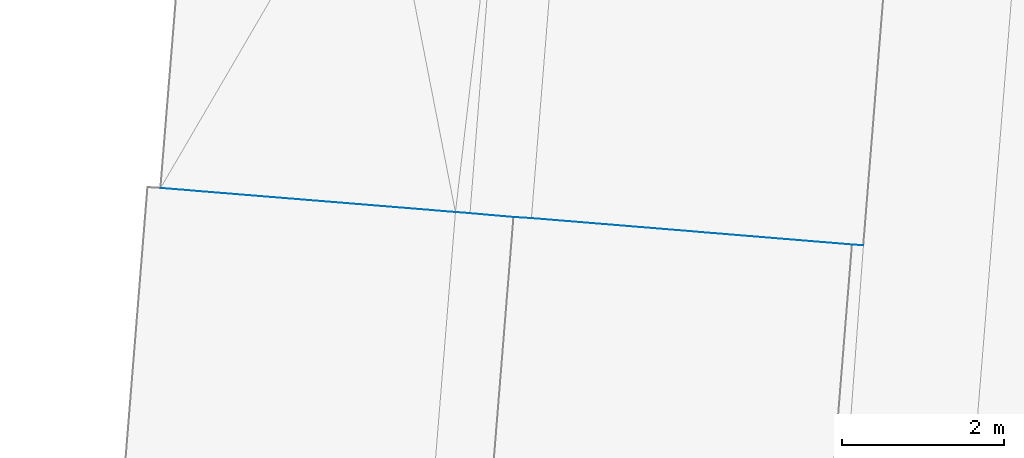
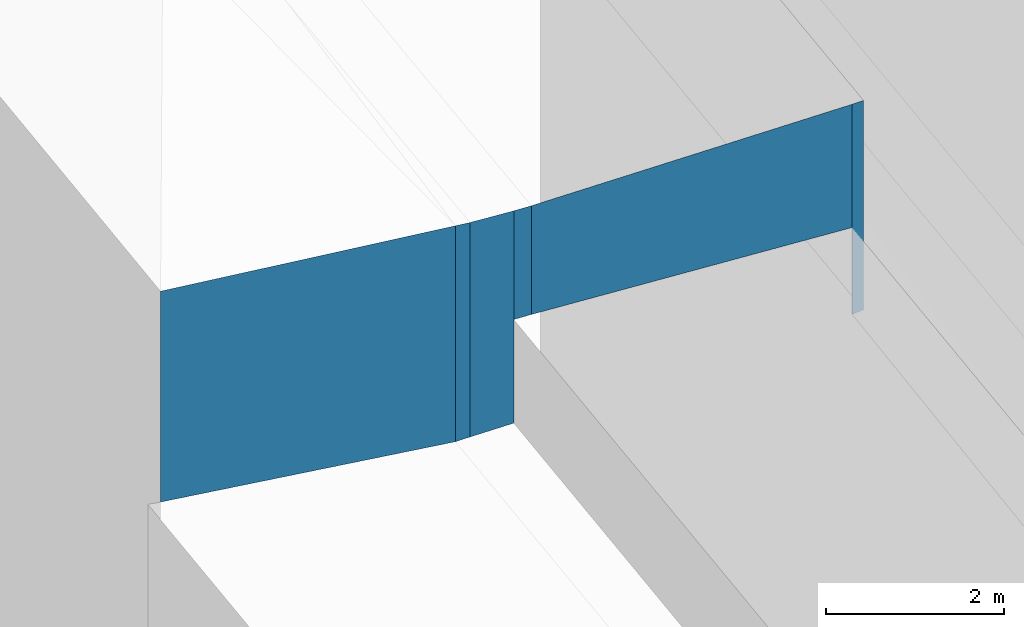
# Not in any storey, part 75 of 136: 6 walls.
"""IFC2X3 building model written with IfcOpenShell, lengths in metres."""

import ifcopenshell
import ifcopenshell.guid

model = None  # the IFC model being written
_history = None  # IfcOwnerHistory: only IFC2X3 demands one
_inside = {}  # id of a spatial element -> (the spatial element, [elements in it])
_under = {}  # id of a project, library or spatial element -> (it, [spatial elements below it])
_declared = {}  # id of a project -> (the project, [libraries it declares])
_typed = {}  # id of a type object -> (the type object, [elements of that type])
_made_of = {}  # id of a material, layer set ... -> (it, [elements and type objects made of it])


def new_model(schema):
    """Start an empty IFC model of exactly this schema.

    Asked for "IFC4X3", IfcOpenShell would pick the latest addendum, in which some entities
    have other attributes; the version numbers below select the first issue.
    IFC2X3 requires an IfcOwnerHistory on every rooted entity: one is made here for all.
    """
    global model, _history
    if schema == "IFC4X3":
        model = ifcopenshell.file(schema_version=(4, 3, 0, 0))
    else:
        model = ifcopenshell.file(schema=schema)
    _inside.clear()
    _under.clear()
    _declared.clear()
    _typed.clear()
    _made_of.clear()
    _history = None
    if model.schema == "IFC2X3":
        org = make("IfcOrganization", Name="unknown")
        user = make(
            "IfcPersonAndOrganization",
            ThePerson=make("IfcPerson", FamilyName="unknown"),
            TheOrganization=org,
        )
        app = make(
            "IfcApplication",
            ApplicationDeveloper=org,
            Version="unknown",
            ApplicationFullName="unknown",
            ApplicationIdentifier="unknown",
        )
        _history = make(
            "IfcOwnerHistory",
            OwningUser=user,
            OwningApplication=app,
            ChangeAction="ADDED",
            CreationDate=0,
        )
    return model


def make(cls, **values):
    """One entity of the class cls with the attributes given. An attribute that is None is left unset."""
    return model.create_entity(
        cls, **{name: value for name, value in values.items() if value is not None}
    )


def entity(cls, *values):
    """Any entity or typed value of the class cls, its attributes in the order of the schema. None: left unset."""
    e = model.create_entity(cls)
    for i, value in enumerate(values):
        if value is not None:
            e[i] = value
    return e


def rooted(cls, **values):
    """An entity with a GlobalId (a new one), such as an element, a storey or a relation."""
    return make(cls, GlobalId=ifcopenshell.guid.new(), OwnerHistory=_history, **values)


def si_unit(unit_type, name, prefix=None):
    """IfcSIUnit, for example si_unit("LENGTHUNIT", "METRE", prefix="MILLI")."""
    return make("IfcSIUnit", UnitType=unit_type, Prefix=prefix, Name=name)


def converted_unit(unit_type, name, factor, base, dimensions=None, offset=None):
    """IfcConversionBasedUnit, such as the inch: factor (a typed value) times the base unit."""
    return make(
        "IfcConversionBasedUnit"
        if offset is None
        else "IfcConversionBasedUnitWithOffset",
        ConversionOffset=offset,
        Dimensions=None
        if dimensions is None
        else entity("IfcDimensionalExponents", *dimensions),
        UnitType=unit_type,
        Name=name,
        ConversionFactor=make(
            "IfcMeasureWithUnit", ValueComponent=factor, UnitComponent=base
        ),
    )


def assignment(units):
    """IfcUnitAssignment: the units of a project."""
    return None if units is None else make("IfcUnitAssignment", Units=units)


def point(xyz):
    """IfcCartesianPoint."""
    return None if xyz is None else make("IfcCartesianPoint", Coordinates=xyz)


def direction(xyz):
    """IfcDirection."""
    return None if xyz is None else make("IfcDirection", DirectionRatios=xyz)


def frame(location, z_axis=None, x_axis=None):
    """IfcAxis2Placement3D, a coordinate frame: its origin and axes. An axis left out is left unset."""
    return make(
        "IfcAxis2Placement3D",
        Location=point(location),
        Axis=direction(z_axis),
        RefDirection=direction(x_axis),
    )


def origin():
    """The frame at (0, 0, 0) with its axes left unset."""
    return frame((0.0, 0.0, 0.0))


def place(relative_to, where):
    """IfcLocalPlacement: puts the frame where relative to a parent placement (None: the world)."""
    return make(
        "IfcLocalPlacement", PlacementRelTo=relative_to, RelativePlacement=where
    )


def context(
    kind, dimensions, precision=None, world=None, true_north=None, identifier=None
):
    """IfcGeometricRepresentationContext, for example the 3D "Model" context."""
    return make(
        "IfcGeometricRepresentationContext",
        ContextIdentifier=identifier,
        ContextType=kind,
        CoordinateSpaceDimension=dimensions,
        Precision=precision,
        WorldCoordinateSystem=world,
        TrueNorth=true_north,
    )


def subcontext(parent, identifier, kind, view, scale=None):
    """IfcGeometricRepresentationSubContext, for example "Body" below "Model"."""
    return make(
        "IfcGeometricRepresentationSubContext",
        ContextIdentifier=identifier,
        ContextType=kind,
        ParentContext=parent,
        TargetScale=scale,
        TargetView=view,
    )


def project(units=None, contexts=None):
    """IfcProject with its units and contexts."""
    return rooted(
        "IfcProject",
        Name="project",
        RepresentationContexts=contexts,
        UnitsInContext=assignment(units),
    )


def spatial(cls, under=None, at=None, **own):
    """A site, building, storey or space (cls), placed at a placement, below another one or the project."""
    s = rooted(cls, ObjectPlacement=at, **own)
    if under is not None:
        _under.setdefault(under.id(), (under, []))[1].append(s)
    return s


def faces_of(points, faces, orient=None, outer=None):
    """IfcFace entities. A face is a list of loops; a loop is a list of indices into points, from 0.

    orient and outer hold one flag for each loop. By default every Orientation is true, the
    first loop of a face is its IfcFaceOuterBound and the others are IfcFaceBound.
    """
    made = []
    for i, loops in enumerate(faces):
        bounds = []
        for j, loop in enumerate(loops):
            is_outer = j == 0 if outer is None else outer[i][j]
            bounds.append(
                make(
                    "IfcFaceOuterBound" if is_outer else "IfcFaceBound",
                    Bound=make("IfcPolyLoop", Polygon=[points[k] for k in loop]),
                    Orientation=True if orient is None else orient[i][j],
                )
            )
        made.append(make("IfcFace", Bounds=bounds))
    return made


def face_set(faces, orient=None, outer=None):
    """The faces of one IfcConnectedFaceSet. surface_model builds it on its shared points."""
    return ("IfcConnectedFaceSet", faces, orient, outer)


def surface_model(cls, points, shells):
    """IfcFaceBasedSurfaceModel or IfcShellBasedSurfaceModel (cls): surfaces that need not close."""
    shared = [point(p) for p in points]
    made = [make(c, CfsFaces=faces_of(shared, fs, o, b)) for c, fs, o, b in shells]
    if cls == "IfcFaceBasedSurfaceModel":
        return make(cls, FbsmFaces=made)
    return make(cls, SbsmBoundary=made)


def shape(context_of_items, identifier, shape_type, items):
    """IfcShapeRepresentation: the items that make up one representation, for example the "Body"."""
    return make(
        "IfcShapeRepresentation",
        ContextOfItems=context_of_items,
        RepresentationIdentifier=identifier,
        RepresentationType=shape_type,
        Items=items,
    )


def made_of(thing, what):
    """Note that an element or type object is made of a material, layer set ...; save() writes the relation."""
    if what is not None:
        _made_of.setdefault(what.id(), (what, []))[1].append(thing)
    return thing


def element(
    cls,
    number,
    at=None,
    inside=None,
    cuts=None,
    type_object=None,
    material=None,
    context=None,
    identifier="Body",
    shape_type=None,
    held_by="IfcProductDefinitionShape",
    body=None,
    shapes=None,
    **own,
):
    """One element of the class cls, such as IfcWall. Its Tag is "e" and its number.

    at: its placement. inside: the storey or other place that contains it. cuts: it is an
    opening in that element (IfcRelVoidsElement). A single representation is given by context,
    identifier, shape_type and body (its items); several are given by shapes. held_by: the class
    of the entity that holds the representations. save() writes the other relations.
    """
    e = rooted(cls, Tag="e%d" % number, ObjectPlacement=at, **own)
    if body is not None:
        shapes = [shape(context, identifier, shape_type, body)]
    if shapes is not None:
        e.Representation = make(held_by, Representations=shapes)
    if inside is not None:
        _inside.setdefault(inside.id(), (inside, []))[1].append(e)
    if cuts is not None:
        rooted(
            "IfcRelVoidsElement", RelatingBuildingElement=cuts, RelatedOpeningElement=e
        )
    if type_object is not None:
        _typed.setdefault(type_object.id(), (type_object, []))[1].append(e)
    return made_of(e, material)


def aggregate(whole, parts):
    """IfcRelAggregates: a whole, such as a stair, and the parts it consists of."""
    return rooted("IfcRelAggregates", RelatingObject=whole, RelatedObjects=parts)


def save(model, path):
    """Write the relations noted so far, then the file.

    IfcRelAggregates (storeys below a building ...), IfcRelContainedInSpatialStructure (elements
    in a storey), IfcRelDefinesByType, IfcRelAssociatesMaterial and IfcRelDeclares: one each for
    every whole, place, type object, material and project.
    """
    for whole, parts in _under.values():
        aggregate(whole, parts)
    for where, things in _inside.values():
        rooted(
            "IfcRelContainedInSpatialStructure",
            RelatedElements=things,
            RelatingStructure=where,
        )
    for kind, things in _typed.values():
        rooted("IfcRelDefinesByType", RelatedObjects=things, RelatingType=kind)
    for what, things in _made_of.values():
        rooted("IfcRelAssociatesMaterial", RelatedObjects=things, RelatingMaterial=what)
    for by, libraries in _declared.values():
        rooted("IfcRelDeclares", RelatingContext=by, RelatedDefinitions=libraries)
    model.write(path)


model = new_model("IFC2X3")

# Units and contexts
model_context = context("Model", 3, precision=1e-05, world=origin())
body_context = subcontext(model_context, "Body", "Model", "MODEL_VIEW")
ifc_project = project(units=[converted_unit("PLANEANGLEUNIT", "DEGREE", entity("IfcRatioMeasure", 0.0174532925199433), si_unit("PLANEANGLEUNIT", "RADIAN"), dimensions=[0, 0, 0, 0, 0, 0, 0]), si_unit("AREAUNIT", "SQUARE_METRE"), si_unit("LENGTHUNIT", "METRE")], contexts=[model_context])

# Site, building
site_placement = place(None, origin())
site = spatial("IfcSite", under=ifc_project, at=site_placement, Name="_site", CompositionType="ELEMENT")
building_placement = place(site_placement, origin())
building = spatial("IfcBuilding", under=site, at=building_placement, Name="_building", CompositionType="ELEMENT")

# Walls
wall_1_placement = place(building_placement, origin())
element("IfcWall", 1, at=wall_1_placement, inside=building, Name="Wall", context=body_context, shape_type="SurfaceModel", body=[
    surface_model("IfcFaceBasedSurfaceModel", [(218.73, 87.992, 56.02), (215.08, 88.29, 56.22), (215.08, 88.29, 53.33), (218.73, 87.992, 53.06)], [face_set([[[0, 1, 2, 3]]])]),
])
wall_2_placement = place(building_placement, origin())
element("IfcWall", 2, at=wall_2_placement, inside=building, Name="Wall", context=body_context, shape_type="SurfaceModel", body=[
    surface_model("IfcFaceBasedSurfaceModel", [(223.78, 87.58, 56.22), (223.64, 87.59, 56.21), (223.64, 87.59, 53.33), (223.78, 87.58, 53.35)], [face_set([[[0, 1, 2, 3]]])]),
])
wall_3_placement = place(building_placement, origin())
element("IfcWall", 3, at=wall_3_placement, inside=building, Name="Wall", context=body_context, shape_type="SurfaceModel", body=[
    surface_model("IfcFaceBasedSurfaceModel", [(219.67, 87.917, 56.01), (219.45, 87.93, 56.01), (219.45, 87.93, 54.52), (219.67, 87.917, 54.52)], [face_set([[[0, 1, 2, 3]]])]),
])
wall_4_placement = place(building_placement, origin())
element("IfcWall", 4, at=wall_4_placement, inside=building, Name="Wall", context=body_context, shape_type="SurfaceModel", body=[
    surface_model("IfcFaceBasedSurfaceModel", [(223.64, 87.59, 56.21), (219.67, 87.917, 56.01), (219.67, 87.917, 54.52), (223.64, 87.59, 54.52)], [face_set([[[0, 1, 2, 3]]])]),
])
wall_5_placement = place(building_placement, origin())
element("IfcWall", 5, at=wall_5_placement, inside=building, Name="Wall", context=body_context, shape_type="SurfaceModel", body=[
    surface_model("IfcFaceBasedSurfaceModel", [(219.45, 87.93, 56.01), (218.91, 87.978, 56.01), (218.91, 87.978, 53.07), (219.45, 87.93, 53.1)], [face_set([[[0, 1, 2, 3]]])]),
])
wall_6_placement = place(building_placement, origin())
element("IfcWall", 6, at=wall_6_placement, inside=building, Name="Wall", context=body_context, shape_type="SurfaceModel", body=[
    surface_model("IfcFaceBasedSurfaceModel", [(218.91, 87.978, 56.01), (218.73, 87.992, 56.02), (218.73, 87.992, 53.06), (218.91, 87.978, 53.07)], [face_set([[[0, 1, 2, 3]]])]),
])

save(model, "model.ifc")
